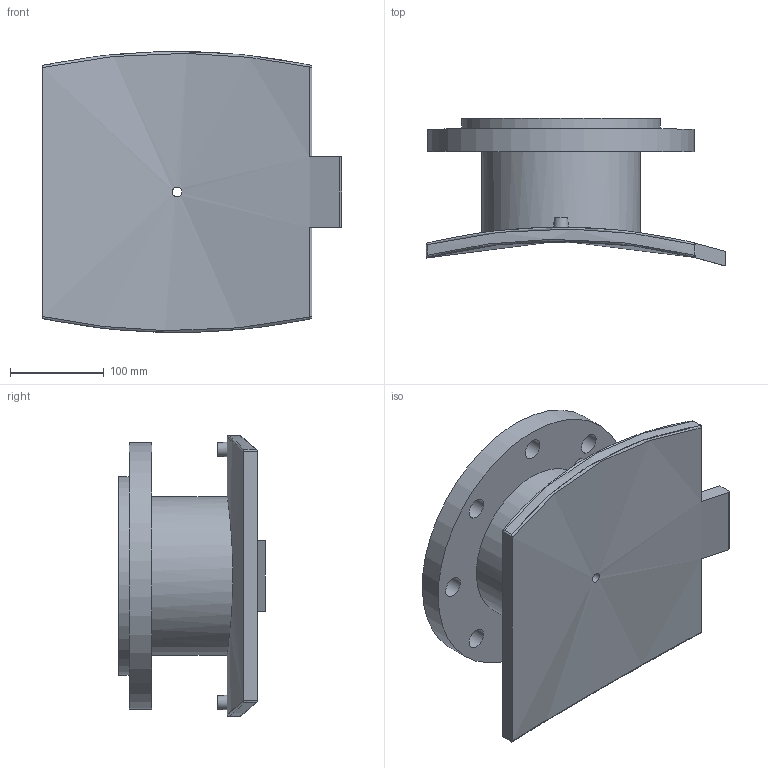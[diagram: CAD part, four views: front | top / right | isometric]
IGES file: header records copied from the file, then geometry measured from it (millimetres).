
Global section: file name: 4959031200150T; native system: Autodesk Inventor 2019; preprocessor: unknown; author: KIM; date: 20240403.210941; units: millimetre
Bounding box: 320 x 156.72 x 299.81 mm (x, y, z)
Volume: 3448812.4 mm3; surface area: 411890 mm2
Topology: 1 solids, 1 shells, 58 faces, 151 edges, 118 vertices
Faces by surface type: bspline 58
